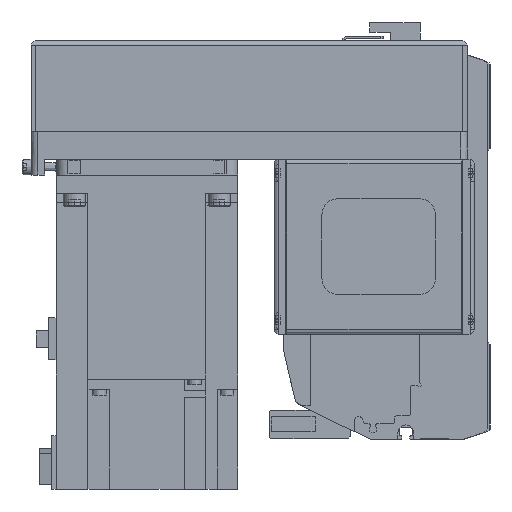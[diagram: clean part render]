
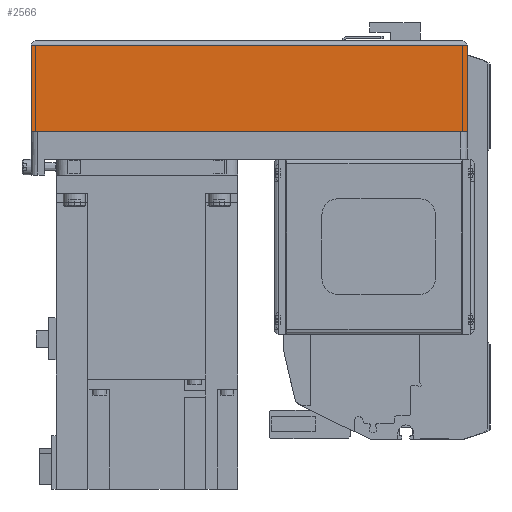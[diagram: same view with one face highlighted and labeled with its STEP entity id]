
A CAD part, left-side view. The second image highlights one B-rep face of the part: STEP entity #2566.
In plain terms, the highlighted planar face has unit normal (-1, 0, 0) as drawn and (0, 1, 0) by its records, which use the part's own axes.
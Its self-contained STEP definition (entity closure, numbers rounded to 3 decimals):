
#2566 = ADVANCED_FACE( '', ( #5781 ), #5782, .T. );
#5781 = FACE_OUTER_BOUND( '', #9647, .T. );
#5782 = PLANE( '', #9648 );
#9647 = EDGE_LOOP( '', ( #16992, #16993, #16994, #16995 ) );
#9648 = AXIS2_PLACEMENT_3D( '', #16996, #16997, #16998 );
#16992 = ORIENTED_EDGE( '', *, *, #23490, .F. );
#16993 = ORIENTED_EDGE( '', *, *, #21843, .F. );
#16994 = ORIENTED_EDGE( '', *, *, #24311, .T. );
#16995 = ORIENTED_EDGE( '', *, *, #24312, .T. );
#16996 = CARTESIAN_POINT( '', ( -192., 40., -50. ) );
#16997 = DIRECTION( '', ( 0., 1., 0. ) );
#16998 = DIRECTION( '', ( 0., 0., 1. ) );
#21843 = EDGE_CURVE( '', #25935, #26042, #26043, .T. );
#23490 = EDGE_CURVE( '', #26042, #28765, #28766, .T. );
#24311 = EDGE_CURVE( '', #25935, #29907, #29908, .T. );
#24312 = EDGE_CURVE( '', #29907, #28765, #29909, .T. );
#25935 = VERTEX_POINT( '', #32060 );
#26042 = VERTEX_POINT( '', #32202 );
#26043 = LINE( '', #32203, #32204 );
#28765 = VERTEX_POINT( '', #36869 );
#28766 = LINE( '', #36870, #36871 );
#29907 = VERTEX_POINT( '', #38551 );
#29908 = LINE( '', #38552, #38553 );
#29909 = LINE( '', #38554, #38555 );
#32060 = CARTESIAN_POINT( '', ( -192., 40., -50. ) );
#32202 = CARTESIAN_POINT( '', ( 0., 40., -50. ) );
#32203 = CARTESIAN_POINT( '', ( -192., 40., -50. ) );
#32204 = VECTOR( '', #41023, 1000. );
#36869 = CARTESIAN_POINT( '', ( 0., 40., -12.1 ) );
#36870 = CARTESIAN_POINT( '', ( 0., 40., -50. ) );
#36871 = VECTOR( '', #43126, 1000. );
#38551 = CARTESIAN_POINT( '', ( -192., 40., -12.1 ) );
#38552 = CARTESIAN_POINT( '', ( -192., 40., -50. ) );
#38553 = VECTOR( '', #44027, 1000. );
#38554 = CARTESIAN_POINT( '', ( -192., 40., -12.1 ) );
#38555 = VECTOR( '', #44028, 1000. );
#41023 = DIRECTION( '', ( 1., 0., 0. ) );
#43126 = DIRECTION( '', ( 0., 0., 1. ) );
#44027 = DIRECTION( '', ( 0., 0., 1. ) );
#44028 = DIRECTION( '', ( 1., 0., 0. ) );
